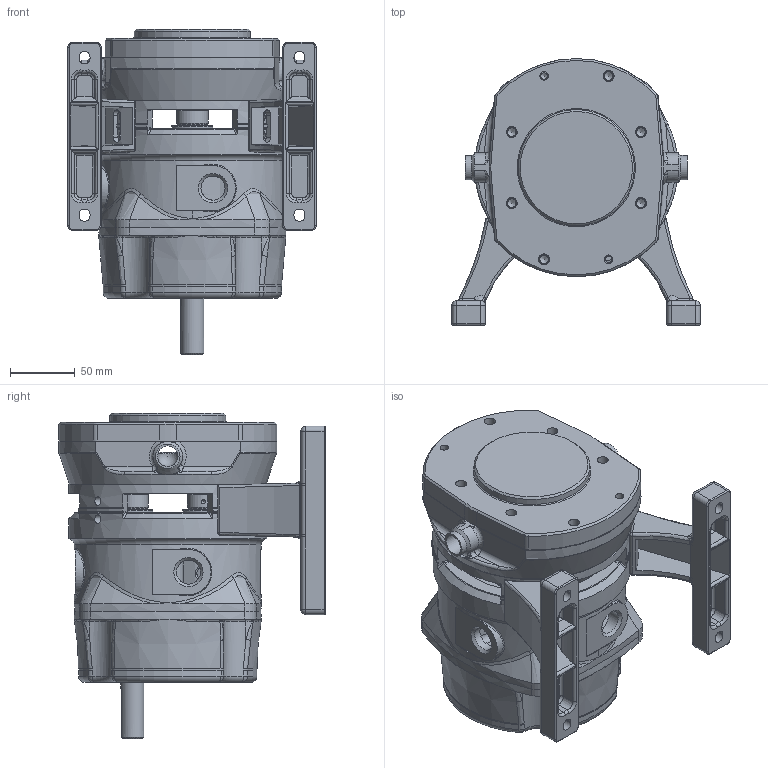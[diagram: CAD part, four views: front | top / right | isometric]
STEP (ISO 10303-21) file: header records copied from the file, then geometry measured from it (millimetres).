
FILE_DESCRIPTION(/* description */ (''),/* implementation_level */ '2;1');
FILE_NAME(/* name */ 'DW+1 commercial use.stp',/* time_stamp */ '2025-10-14T14:42:20+02:00',/* author */ ('WA4RRE'),/* organization */ (''),/* preprocessor_version */ 'ST-DEVELOPER v20',/* originating_system */ 'Autodesk Inventor 2025',/* authorisation */ '');
FILE_SCHEMA (('AUTOMOTIVE_DESIGN { 1 0 10303 214 3 1 1 }'));
Products named in the file (9): DW1_Assembly; H11590; H10053; H10054; H11419; CVLA1302100_R0; CVLA1364100; LA5211100_1; LA5211100_1_1
Assembly tree (8 placements, depth 2):
  DW1_Assembly
    H11590
    H10053
    H10054
    H11419
    CVLA1302100_R0
    CVLA1364100
    LA5211100_1
    LA5211100_1_1
Bounding box: 192.5 x 206.5 x 252.07 mm (x, y, z)
Volume: 1942702.7 mm3; surface area: 459541.9 mm2
Topology: 8 solids, 8 shells, 1537 faces, 3909 edges, 2408 vertices
Faces by surface type: cylinder 534, plane 313, bspline 250, torus 223, cone 167, sphere 50
Full cylindrical faces by diameter (mm): 3.1 x2, 4.496 x2, 4.917 x18, 6.4 x4, 6.647 x16, 7 x4, 8 x6, 8.2 x4, 8.376 x2, 8.5 x6, 9 x4, 10 x7, 11 x2, 16 x2, 16.5 x2, 17 x2, 18 x1, 18.05 x1, 18.631 x4, 19 x4, 20 x2, 21.5 x2, 24.5 x4, 25 x4, 30 x1, 32 x2, 44 x2, 44.75 x2, 46.995 x2, 50 x2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
Entity records: 56759 total; most frequent: CARTESIAN_POINT 20213, ORIENTED_EDGE 7704, DIRECTION 7413, EDGE_CURVE 3852, AXIS2_PLACEMENT_3D 3080, VERTEX_POINT 2408, EDGE_LOOP 1723, CIRCLE 1688
